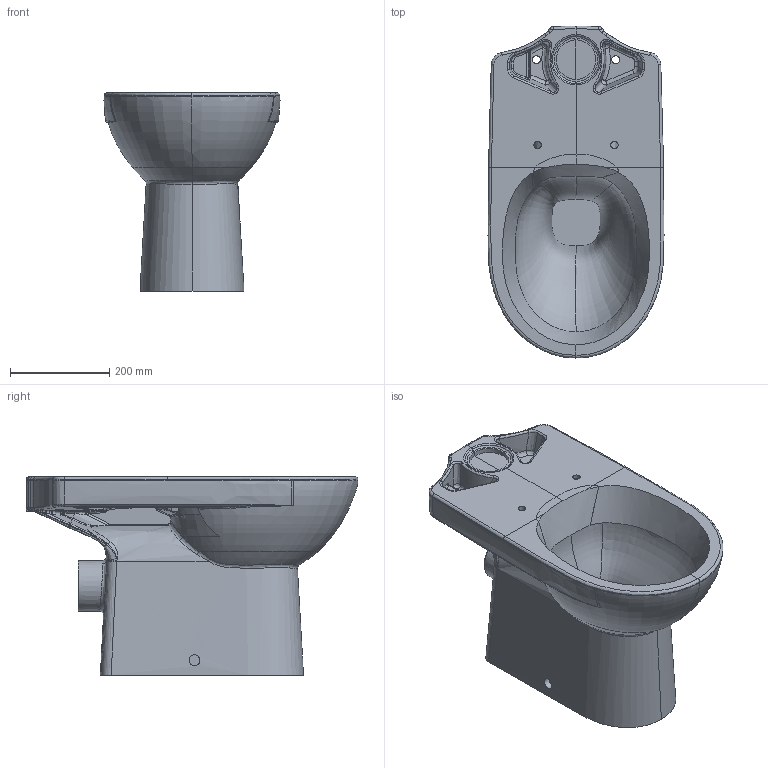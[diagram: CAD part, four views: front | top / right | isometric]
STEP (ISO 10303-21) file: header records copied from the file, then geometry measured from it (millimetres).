
FILE_DESCRIPTION(/* description */ (''),/* implementation_level */ '2;1');
FILE_NAME(/* name */ 'C:\Planerdaten\Export PLA\500.285.01.1\stp\500285.stp',/* time_stamp */ '2020-05-27T08:30:06+02:00',/* author */ ('JANAN'),/* organization */ (''),/* preprocessor_version */ 'ST-DEVELOPER v16.13',/* originating_system */ 'Autodesk Inventor 2018',/* authorisation */ '');
FILE_SCHEMA (('AUTOMOTIVE_DESIGN { 1 0 10303 214 3 1 1 }'));
Products named in the file (1): SWC-TfAP-SPK-a Ge+Snv T68 Abg-h Rfre
Bounding box: 355.21 x 670 x 400 mm (x, y, z)
Volume: 26661367.8 mm3; surface area: 1150388.5 mm2
Topology: 1 solids, 1 shells, 525 faces, 1237 edges, 716 vertices
Faces by surface type: bspline 429, cylinder 52, plane 38, sphere 6
Full cylindrical faces by diameter (mm): 15 x2, 16 x2, 22 x2
Entity records: 104953 total; most frequent: CARTESIAN_POINT 94949, ORIENTED_EDGE 2454, DIRECTION 1300, EDGE_CURVE 1227, VERTEX_POINT 715, AXIS2_PLACEMENT_3D 561, EDGE_LOOP 544, B_SPLINE_CURVE_WITH_KNOTS 544
